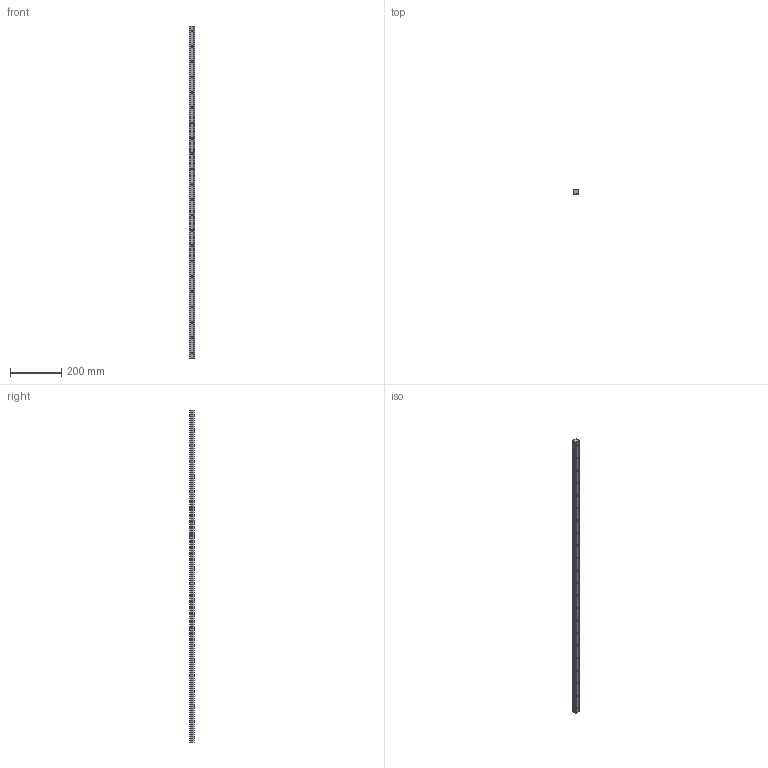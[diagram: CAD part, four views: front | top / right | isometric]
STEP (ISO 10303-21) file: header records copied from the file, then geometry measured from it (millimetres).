
FILE_DESCRIPTION (( 'STEP AP203' ), '1' );
FILE_NAME ('L1016.BRF25-1300.step', '2019-06-13T08:37:46', ( '' ), ( '' ), 'SwSTEP 2.0', 'SolidWorks 2017', '' );
FILE_SCHEMA (( 'CONFIG_CONTROL_DESIGN' ));
Length unit declared in the file: millimetre
Products named in the file (1): L1016.BRF25-1300
Bounding box: 23 x 19.2 x 1300 mm (x, y, z)
Volume: 496269.3 mm3; surface area: 120118.3 mm2
Topology: 1 solids, 1 shells, 180 faces, 424 edges, 246 vertices
Faces by surface type: cylinder 92, cone 44, plane 44
Entity records: 4949 total; most frequent: DIRECTION 926, CARTESIAN_POINT 807, ORIENTED_EDGE 760, EDGE_CURVE 380, AXIS2_PLACEMENT_3D 365, VERTEX_POINT 246, EDGE_LOOP 224, LINE 196
